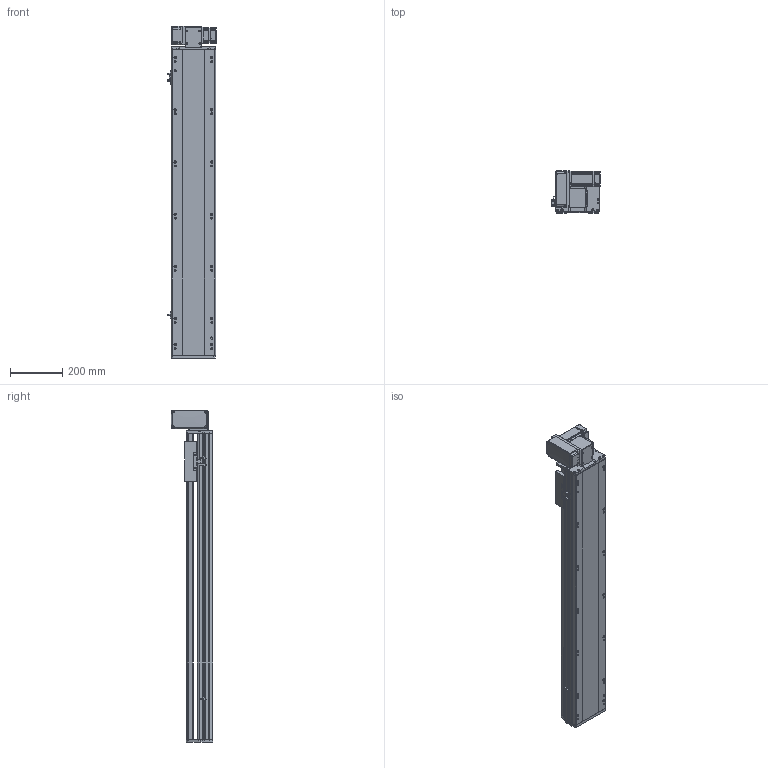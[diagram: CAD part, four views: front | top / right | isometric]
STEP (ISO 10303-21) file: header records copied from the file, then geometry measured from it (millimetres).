
FILE_DESCRIPTION (( 'STEP AP214' ), '1' );
FILE_NAME ('RTB17S-XX-900-LW-M40-C4.STEP', '2025-12-11T07:02:37', ( '' ), ( '' ), 'SwSTEP 2.0', 'SolidWorks 2018', '' );
FILE_SCHEMA (( 'AUTOMOTIVE_DESIGN' ));
Length unit declared in the file: millimetre
Products named in the file (14): RTB14-L-005P--轴承塑胶压盖^RTB17S-LW-皮带座装配-400W_RTB17S-XX-XX-LW-M40-C4; RTB17S-LW-々湍釱蚾饜-400W^RTB17S-XX-XX-LW-M40-C4; RTB17-R-011菁釱^RTB17S-XX-XX-LW-M40-C4; RTB14-L-017P^RTB17S-LW-々湍釱蚾饜-400W_RTB17S-XX-XX-LW-M40-C4; RTB17S-L-014-T20--々湍釱^RTB17S-LW-々湍釱蚾饜-400W_RTB17S-XX-XX-LW-M40-C4; OMRON EE-SX672 传感器^RTB17S-XX-XX-LW-M40-C4; RTB17S-L-001耜醱啣^RTB17S-XX-XX-LW-M40-C4; RTB17S-XX-900-LW-M40-C4; RTH13-BL-012覜茼え俋离^RTB17S-XX-XX-LW-M40-C4; 400W侜督萇儂^RTB17S-XX-XX-LW-M40-C4; RTB14-L-018P^RTB17S-LW-々湍釱蚾饜-400W_RTB17S-XX-XX-LW-M40-C4; RTB17S-L-007奻裔^RTB17S-XX-XX-LW-M40-C4; RTB14-L-008-M20--萇儂啣^RTB17S-LW-々湍釱蚾饜-400W_RTB17S-XX-XX-LW-M40-C4; RTB17S-L-004佪裝蹟譫蟀諉釱^RTB17S-XX-XX-LW-M40-C4
Assembly tree (16 placements, depth 3):
  RTB17S-XX-900-LW-M40-C4
    RTB17-R-011菁釱^RTB17S-XX-XX-LW-M40-C4
    RTB17S-L-007奻裔^RTB17S-XX-XX-LW-M40-C4
    OMRON EE-SX672 传感器^RTB17S-XX-XX-LW-M40-C4  x3
    RTB17S-L-001耜醱啣^RTB17S-XX-XX-LW-M40-C4
    400W侜督萇儂^RTB17S-XX-XX-LW-M40-C4
    RTB17S-L-004佪裝蹟譫蟀諉釱^RTB17S-XX-XX-LW-M40-C4
    RTH13-BL-012覜茼え俋离^RTB17S-XX-XX-LW-M40-C4
    RTB17S-LW-々湍釱蚾饜-400W^RTB17S-XX-XX-LW-M40-C4
      RTB17S-L-014-T20--々湍釱^RTB17S-LW-々湍釱蚾饜-400W_RTB17S-XX-XX-LW-M40-C4
      RTB14-L-005P--轴承塑胶压盖^RTB17S-LW-皮带座装配-400W_RTB17S-XX-XX-LW-M40-C4
      RTB14-L-008-M20--萇儂啣^RTB17S-LW-々湍釱蚾饜-400W_RTB17S-XX-XX-LW-M40-C4
      RTB14-L-017P^RTB17S-LW-々湍釱蚾饜-400W_RTB17S-XX-XX-LW-M40-C4  x2
      RTB14-L-018P^RTB17S-LW-々湍釱蚾饜-400W_RTB17S-XX-XX-LW-M40-C4
Bounding box: 186 x 160.5 x 1272.5 mm (x, y, z)
Volume: 11556255 mm3; surface area: 1410035 mm2
Topology: 15 solids, 15 shells, 2205 faces, 6087 edges, 3969 vertices
Faces by surface type: plane 1068, cylinder 689, bspline 301, cone 139, torus 8
Entity records: 62633 total; most frequent: CARTESIAN_POINT 17492, ORIENTED_EDGE 9018, DIRECTION 8396, EDGE_CURVE 4509, VERTEX_POINT 2957, AXIS2_PLACEMENT_3D 2887, VECTOR 2622, LINE 2622
